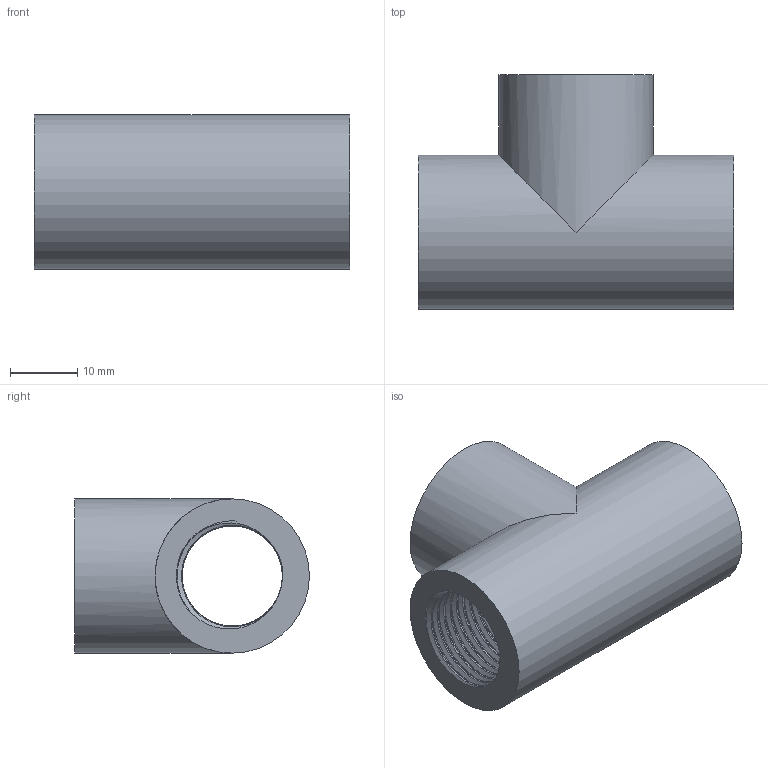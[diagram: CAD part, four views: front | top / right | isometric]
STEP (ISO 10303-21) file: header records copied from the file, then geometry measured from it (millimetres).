
FILE_DESCRIPTION(/* description */ ('(descrizione)'),/* implementation_level */ '2;1');
FILE_NAME(/* name */ 'C:\Users\POLYPIPE\Desktop\DATASET INVENTOR\LIBRERIA EFFAST\RACCORDI 3DxWEB\RER\3D_RERTIE\3D_RERTIE016A.stp',/* time_stamp */ '2018-01-19T17:20:14+01:00',/* author */ ('POLYPIPE'),/* organization */ ('Polypipe Italia s.r.l.'),/* preprocessor_version */ 'ST-DEVELOPER v16.1',/* originating_system */ 'Autodesk Inventor 2016',/* authorisation */ '');
FILE_SCHEMA (('CONFIG_CONTROL_DESIGN'));
Length unit declared in the file: millimetre
Products named in the file (1): 3D_RERTIE
Bounding box: 47 x 35 x 23 mm (x, y, z)
Volume: 13049 mm3; surface area: 9231.6 mm2
Topology: 1 solids, 1 shells, 25 faces, 70 edges, 46 vertices
Faces by surface type: bspline 15, plane 6, cylinder 4
Full cylindrical faces by diameter (mm): 14.95 x2, 23 x2
Entity records: 13229 total; most frequent: CARTESIAN_POINT 12712, ORIENTED_EDGE 116, DIRECTION 63, EDGE_CURVE 58, VERTEX_POINT 40, EDGE_LOOP 34, B_SPLINE_CURVE_WITH_KNOTS 33, AXIS2_PLACEMENT_3D 27
